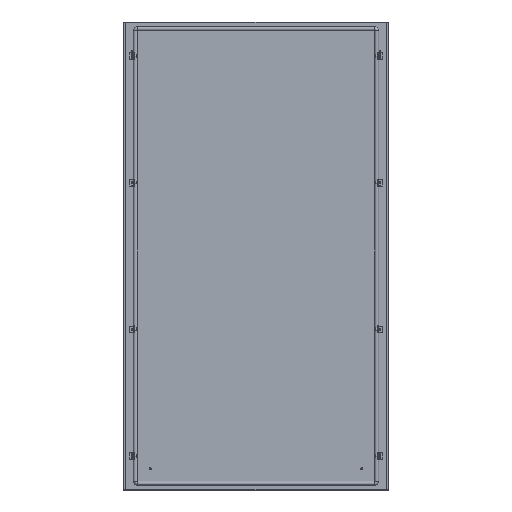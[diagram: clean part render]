
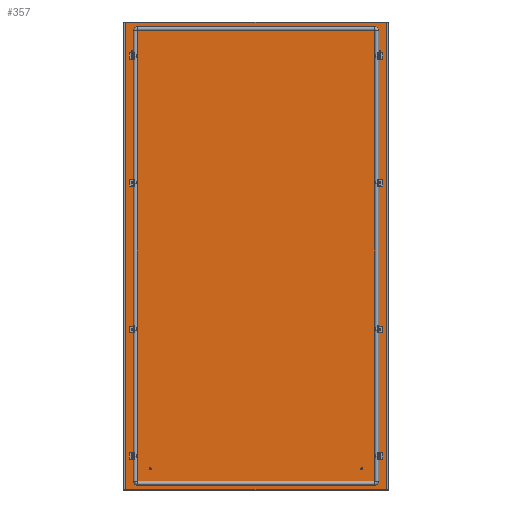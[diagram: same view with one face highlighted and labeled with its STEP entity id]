
A CAD part, top view. The second image highlights one B-rep face of the part: STEP entity #357.
In plain terms, the highlighted planar face has unit normal (0, 0, 1).
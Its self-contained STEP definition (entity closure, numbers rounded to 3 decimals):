
#357 = ADVANCED_FACE('',(#358,#456,#467,#478,#498,#518,#529,#540,#560),
  #580,.F.);
#358 = FACE_BOUND('',#359,.T.);
#359 = EDGE_LOOP('',(#360,#370,#378,#386,#394,#402,#410,#418,#426,#434,
    #442,#450));
#360 = ORIENTED_EDGE('',*,*,#361,.F.);
#361 = EDGE_CURVE('',#362,#364,#366,.T.);
#362 = VERTEX_POINT('',#363);
#363 = CARTESIAN_POINT('',(-495.5,877.5,0.));
#364 = VERTEX_POINT('',#365);
#365 = CARTESIAN_POINT('',(-495.3,877.5,0.));
#366 = LINE('',#367,#368);
#367 = CARTESIAN_POINT('',(0.,877.5,0.)
  );
#368 = VECTOR('',#369,1.);
#369 = DIRECTION('',(1.,0.,0.));
#370 = ORIENTED_EDGE('',*,*,#371,.T.);
#371 = EDGE_CURVE('',#362,#372,#374,.T.);
#372 = VERTEX_POINT('',#373);
#373 = CARTESIAN_POINT('',(-495.5,-877.5,0.));
#374 = LINE('',#375,#376);
#375 = CARTESIAN_POINT('',(-495.5,0.,
    0.));
#376 = VECTOR('',#377,1.);
#377 = DIRECTION('',(0.,-1.,0.));
#378 = ORIENTED_EDGE('',*,*,#379,.T.);
#379 = EDGE_CURVE('',#372,#380,#382,.T.);
#380 = VERTEX_POINT('',#381);
#381 = CARTESIAN_POINT('',(-495.3,-877.5,0.));
#382 = LINE('',#383,#384);
#383 = CARTESIAN_POINT('',(0.,-877.5,0.
    ));
#384 = VECTOR('',#385,1.);
#385 = DIRECTION('',(1.,-0.,-0.));
#386 = ORIENTED_EDGE('',*,*,#387,.F.);
#387 = EDGE_CURVE('',#388,#380,#390,.T.);
#388 = VERTEX_POINT('',#389);
#389 = CARTESIAN_POINT('',(-495.3,-876.,0.));
#390 = LINE('',#391,#392);
#391 = CARTESIAN_POINT('',(-495.3,0.,
    0.));
#392 = VECTOR('',#393,1.);
#393 = DIRECTION('',(0.,-1.,0.));
#394 = ORIENTED_EDGE('',*,*,#395,.T.);
#395 = EDGE_CURVE('',#388,#396,#398,.T.);
#396 = VERTEX_POINT('',#397);
#397 = CARTESIAN_POINT('',(495.3,-876.,0.));
#398 = LINE('',#399,#400);
#399 = CARTESIAN_POINT('',(0.,-876.,0.)
  );
#400 = VECTOR('',#401,1.);
#401 = DIRECTION('',(1.,-0.,-0.));
#402 = ORIENTED_EDGE('',*,*,#403,.T.);
#403 = EDGE_CURVE('',#396,#404,#406,.T.);
#404 = VERTEX_POINT('',#405);
#405 = CARTESIAN_POINT('',(495.3,-877.5,0.));
#406 = LINE('',#407,#408);
#407 = CARTESIAN_POINT('',(495.3,-876.,0.));
#408 = VECTOR('',#409,1.);
#409 = DIRECTION('',(0.,-1.,0.));
#410 = ORIENTED_EDGE('',*,*,#411,.F.);
#411 = EDGE_CURVE('',#412,#404,#414,.T.);
#412 = VERTEX_POINT('',#413);
#413 = CARTESIAN_POINT('',(495.5,-877.5,0.));
#414 = LINE('',#415,#416);
#415 = CARTESIAN_POINT('',(0.,-877.5,0.
    ));
#416 = VECTOR('',#417,1.);
#417 = DIRECTION('',(-1.,0.,0.));
#418 = ORIENTED_EDGE('',*,*,#419,.T.);
#419 = EDGE_CURVE('',#412,#420,#422,.T.);
#420 = VERTEX_POINT('',#421);
#421 = CARTESIAN_POINT('',(495.5,877.5,0.));
#422 = LINE('',#423,#424);
#423 = CARTESIAN_POINT('',(495.5,0.,0.));
#424 = VECTOR('',#425,1.);
#425 = DIRECTION('',(0.,1.,0.));
#426 = ORIENTED_EDGE('',*,*,#427,.T.);
#427 = EDGE_CURVE('',#420,#428,#430,.T.);
#428 = VERTEX_POINT('',#429);
#429 = CARTESIAN_POINT('',(495.3,877.5,0.));
#430 = LINE('',#431,#432);
#431 = CARTESIAN_POINT('',(0.,877.5,0.)
  );
#432 = VECTOR('',#433,1.);
#433 = DIRECTION('',(-1.,0.,0.));
#434 = ORIENTED_EDGE('',*,*,#435,.F.);
#435 = EDGE_CURVE('',#436,#428,#438,.T.);
#436 = VERTEX_POINT('',#437);
#437 = CARTESIAN_POINT('',(495.3,876.,0.));
#438 = LINE('',#439,#440);
#439 = CARTESIAN_POINT('',(495.3,0.,0.)
  );
#440 = VECTOR('',#441,1.);
#441 = DIRECTION('',(0.,1.,0.));
#442 = ORIENTED_EDGE('',*,*,#443,.T.);
#443 = EDGE_CURVE('',#436,#444,#446,.T.);
#444 = VERTEX_POINT('',#445);
#445 = CARTESIAN_POINT('',(-495.3,876.,0.));
#446 = LINE('',#447,#448);
#447 = CARTESIAN_POINT('',(0.,876.,0.));
#448 = VECTOR('',#449,1.);
#449 = DIRECTION('',(-1.,0.,0.));
#450 = ORIENTED_EDGE('',*,*,#451,.T.);
#451 = EDGE_CURVE('',#444,#364,#452,.T.);
#452 = LINE('',#453,#454);
#453 = CARTESIAN_POINT('',(-495.3,876.,0.));
#454 = VECTOR('',#455,1.);
#455 = DIRECTION('',(0.,1.,0.));
#456 = FACE_BOUND('',#457,.T.);
#457 = EDGE_LOOP('',(#458));
#458 = ORIENTED_EDGE('',*,*,#459,.T.);
#459 = EDGE_CURVE('',#460,#460,#462,.T.);
#460 = VERTEX_POINT('',#461);
#461 = CARTESIAN_POINT('',(-464.5,-270.25,
    0.));
#462 = CIRCLE('',#463,4.75);
#463 = AXIS2_PLACEMENT_3D('',#464,#465,#466);
#464 = CARTESIAN_POINT('',(-464.5,-275.,0.));
#465 = DIRECTION('',(0.,0.,-1.));
#466 = DIRECTION('',(0.,1.,0.));
#467 = FACE_BOUND('',#468,.T.);
#468 = EDGE_LOOP('',(#469));
#469 = ORIENTED_EDGE('',*,*,#470,.T.);
#470 = EDGE_CURVE('',#471,#471,#473,.T.);
#471 = VERTEX_POINT('',#472);
#472 = CARTESIAN_POINT('',(464.5,-279.75,
    0.));
#473 = CIRCLE('',#474,4.75);
#474 = AXIS2_PLACEMENT_3D('',#475,#476,#477);
#475 = CARTESIAN_POINT('',(464.5,-275.,0.));
#476 = DIRECTION('',(-0.,0.,-1.));
#477 = DIRECTION('',(0.,-1.,0.));
#478 = FACE_BOUND('',#479,.T.);
#479 = EDGE_LOOP('',(#480,#491));
#480 = ORIENTED_EDGE('',*,*,#481,.F.);
#481 = EDGE_CURVE('',#482,#484,#486,.T.);
#482 = VERTEX_POINT('',#483);
#483 = CARTESIAN_POINT('',(-464.5,754.75,
    0.));
#484 = VERTEX_POINT('',#485);
#485 = CARTESIAN_POINT('',(-464.5,745.25,
    0.));
#486 = CIRCLE('',#487,4.75);
#487 = AXIS2_PLACEMENT_3D('',#488,#489,#490);
#488 = CARTESIAN_POINT('',(-464.5,750.,0.));
#489 = DIRECTION('',(0.,0.,1.));
#490 = DIRECTION('',(0.,1.,0.));
#491 = ORIENTED_EDGE('',*,*,#492,.F.);
#492 = EDGE_CURVE('',#484,#482,#493,.T.);
#493 = CIRCLE('',#494,4.75);
#494 = AXIS2_PLACEMENT_3D('',#495,#496,#497);
#495 = CARTESIAN_POINT('',(-464.5,750.,0.));
#496 = DIRECTION('',(0.,0.,1.));
#497 = DIRECTION('',(0.,1.,0.));
#498 = FACE_BOUND('',#499,.T.);
#499 = EDGE_LOOP('',(#500,#511));
#500 = ORIENTED_EDGE('',*,*,#501,.F.);
#501 = EDGE_CURVE('',#502,#504,#506,.T.);
#502 = VERTEX_POINT('',#503);
#503 = CARTESIAN_POINT('',(464.5,745.25,
    0.));
#504 = VERTEX_POINT('',#505);
#505 = CARTESIAN_POINT('',(464.5,754.75,
    0.));
#506 = CIRCLE('',#507,4.75);
#507 = AXIS2_PLACEMENT_3D('',#508,#509,#510);
#508 = CARTESIAN_POINT('',(464.5,750.,0.));
#509 = DIRECTION('',(0.,0.,1.));
#510 = DIRECTION('',(0.,-1.,0.));
#511 = ORIENTED_EDGE('',*,*,#512,.F.);
#512 = EDGE_CURVE('',#504,#502,#513,.T.);
#513 = CIRCLE('',#514,4.75);
#514 = AXIS2_PLACEMENT_3D('',#515,#516,#517);
#515 = CARTESIAN_POINT('',(464.5,750.,0.));
#516 = DIRECTION('',(0.,0.,1.));
#517 = DIRECTION('',(0.,-1.,0.));
#518 = FACE_BOUND('',#519,.T.);
#519 = EDGE_LOOP('',(#520));
#520 = ORIENTED_EDGE('',*,*,#521,.T.);
#521 = EDGE_CURVE('',#522,#522,#524,.T.);
#522 = VERTEX_POINT('',#523);
#523 = CARTESIAN_POINT('',(-464.5,-745.25,
    0.));
#524 = CIRCLE('',#525,4.75);
#525 = AXIS2_PLACEMENT_3D('',#526,#527,#528);
#526 = CARTESIAN_POINT('',(-464.5,-750.,0.));
#527 = DIRECTION('',(0.,0.,-1.));
#528 = DIRECTION('',(0.,1.,0.));
#529 = FACE_BOUND('',#530,.T.);
#530 = EDGE_LOOP('',(#531));
#531 = ORIENTED_EDGE('',*,*,#532,.T.);
#532 = EDGE_CURVE('',#533,#533,#535,.T.);
#533 = VERTEX_POINT('',#534);
#534 = CARTESIAN_POINT('',(464.5,-754.75,
    0.));
#535 = CIRCLE('',#536,4.75);
#536 = AXIS2_PLACEMENT_3D('',#537,#538,#539);
#537 = CARTESIAN_POINT('',(464.5,-750.,0.));
#538 = DIRECTION('',(-0.,0.,-1.));
#539 = DIRECTION('',(0.,-1.,0.));
#540 = FACE_BOUND('',#541,.T.);
#541 = EDGE_LOOP('',(#542,#553));
#542 = ORIENTED_EDGE('',*,*,#543,.F.);
#543 = EDGE_CURVE('',#544,#546,#548,.T.);
#544 = VERTEX_POINT('',#545);
#545 = CARTESIAN_POINT('',(464.5,270.25,
    0.));
#546 = VERTEX_POINT('',#547);
#547 = CARTESIAN_POINT('',(464.5,279.75,
    0.));
#548 = CIRCLE('',#549,4.75);
#549 = AXIS2_PLACEMENT_3D('',#550,#551,#552);
#550 = CARTESIAN_POINT('',(464.5,275.,0.));
#551 = DIRECTION('',(0.,0.,1.));
#552 = DIRECTION('',(0.,-1.,0.));
#553 = ORIENTED_EDGE('',*,*,#554,.F.);
#554 = EDGE_CURVE('',#546,#544,#555,.T.);
#555 = CIRCLE('',#556,4.75);
#556 = AXIS2_PLACEMENT_3D('',#557,#558,#559);
#557 = CARTESIAN_POINT('',(464.5,275.,0.));
#558 = DIRECTION('',(0.,0.,1.));
#559 = DIRECTION('',(0.,-1.,0.));
#560 = FACE_BOUND('',#561,.T.);
#561 = EDGE_LOOP('',(#562,#573));
#562 = ORIENTED_EDGE('',*,*,#563,.F.);
#563 = EDGE_CURVE('',#564,#566,#568,.T.);
#564 = VERTEX_POINT('',#565);
#565 = CARTESIAN_POINT('',(-464.5,279.75,
    0.));
#566 = VERTEX_POINT('',#567);
#567 = CARTESIAN_POINT('',(-464.5,270.25,
    0.));
#568 = CIRCLE('',#569,4.75);
#569 = AXIS2_PLACEMENT_3D('',#570,#571,#572);
#570 = CARTESIAN_POINT('',(-464.5,275.,0.));
#571 = DIRECTION('',(0.,0.,1.));
#572 = DIRECTION('',(0.,1.,0.));
#573 = ORIENTED_EDGE('',*,*,#574,.F.);
#574 = EDGE_CURVE('',#566,#564,#575,.T.);
#575 = CIRCLE('',#576,4.75);
#576 = AXIS2_PLACEMENT_3D('',#577,#578,#579);
#577 = CARTESIAN_POINT('',(-464.5,275.,0.));
#578 = DIRECTION('',(0.,0.,1.));
#579 = DIRECTION('',(0.,1.,0.));
#580 = PLANE('',#581);
#581 = AXIS2_PLACEMENT_3D('',#582,#583,#584);
#582 = CARTESIAN_POINT('',(0.,0.,
    0.));
#583 = DIRECTION('',(0.,0.,-1.));
#584 = DIRECTION('',(-1.,0.,0.));
